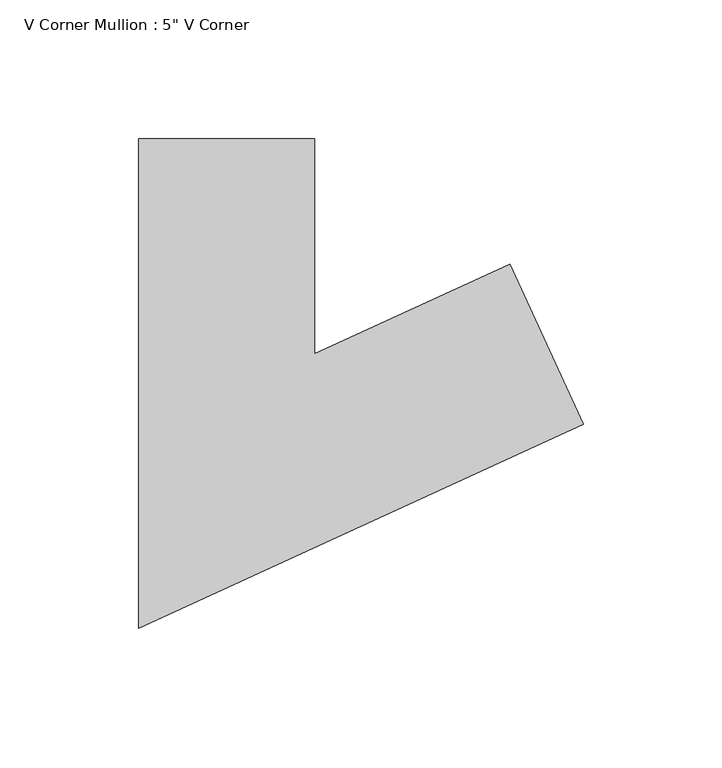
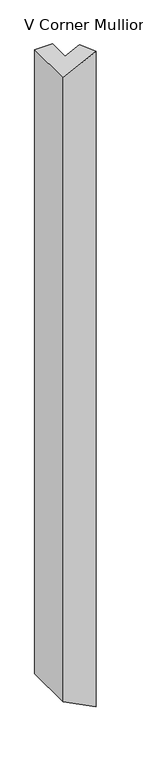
"""IFC4 building model written with IfcOpenShell, lengths in millimetres: member geometry."""

from ifc_helpers import new_model, si_unit, origin, place, context, project, spatial, faceted_brep, source, transform, mapped, element, save


def member_5a81992d(model_context):
    return source(origin(), model_context, "Body", "Brep", [
        faceted_brep([(87.9205542, -39.5195451, 0.0), (61.49523, 18.2208415, 0.0), (-9.0228811, -14.0523047, 0.0), (-9.0228811, 63.5, 0.0), (-72.5228811, 63.5, 0.0), (-72.5228811, -112.9476953, 0.0), (87.9205542, -39.5195451, -2481.798372), (61.49523, 18.2208415, -2462.343838), (-9.0228811, -14.0523047, -2410.4278433), (-9.0228811, 63.5, -2410.4278433), (-72.5228811, 63.5, -2363.6786378), (-72.5228811, -112.9476953, -2363.6786378)], [[[0, 1, 2, 3, 4, 5]], [[1, 0, 6, 7]], [[2, 1, 7, 8]], [[3, 2, 8, 9]], [[4, 3, 9, 10]], [[5, 4, 10, 11]], [[0, 5, 11, 6]], [[6, 11, 10, 9, 8, 7]]]),
    ])


if __name__ == "__main__":
    model = new_model("IFC4")
    model_context = context("Model", 3, world=origin())
    ifc_project = project(units=[si_unit("LENGTHUNIT", "METRE", prefix="MILLI")], contexts=[model_context])
    site = spatial("IfcSite", under=ifc_project)
    building = spatial("IfcBuilding", under=site)
    placement = place(None, origin())
    member_shape = member_5a81992d(model_context)
    element("IfcMember", 1, ObjectType="V Corner Mullion : 5\" V Corner", at=placement, inside=building, context=model_context, shape_type="MappedRepresentation", body=[
        mapped(member_shape, transform((0.0, 0.0, 0.0), x_axis=(1.0, 0.0, 0.0), y_axis=(0.0, 1.0, 0.0), z_axis=(0.0, 0.0, 1.0))),
    ])
    save(model, "model.ifc")
